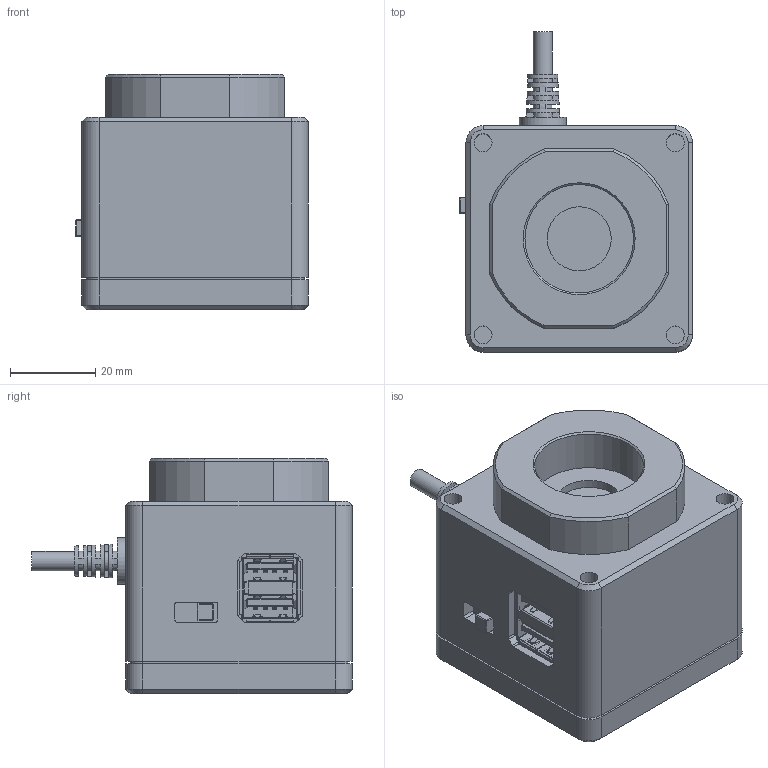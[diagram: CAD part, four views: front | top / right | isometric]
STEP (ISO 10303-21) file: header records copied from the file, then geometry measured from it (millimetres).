
FILE_DESCRIPTION(('STEP AP214'),'1');
FILE_NAME('PT961.stp','2025-12-11T02:28:27',(' '),(' '),'Spatial InterOp 3D',' ',' ');
FILE_SCHEMA(('AUTOMOTIVE_DESIGN { 1 0 10303 214 1 1 1 1 }'));
Length unit declared in the file: metre
Products named in the file (2): PT961; Component1
Assembly tree (1 placements, depth 2):
  PT961
    Component1
Bounding box: 54.5 x 75 x 55 mm (x, y, z)
Volume: 129871.4 mm3; surface area: 25946.7 mm2
Topology: 1 solids, 6 shells, 1697 faces, 4759 edges, 3060 vertices
Faces by surface type: plane 1163, cylinder 451, bspline 63, cone 14, sphere 6
Full cylindrical faces by diameter (mm): 4 x2, 4.2 x4, 4.5 x1, 6 x1, 11 x1, 15 x1, 25.4 x1
Entity records: 71073 total; most frequent: CARTESIAN_POINT 14211, ORIENTED_EDGE 9460, DIRECTION 8278, EDGE_CURVE 4730, LINE 3608, VECTOR 3608, VERTEX_POINT 3050, AXIS2_PLACEMENT_3D 2335
